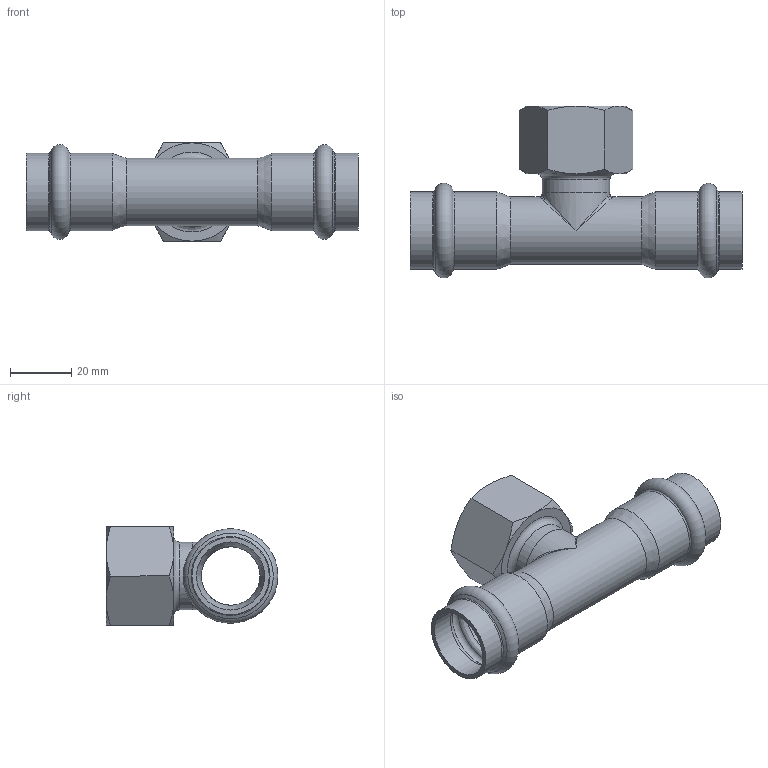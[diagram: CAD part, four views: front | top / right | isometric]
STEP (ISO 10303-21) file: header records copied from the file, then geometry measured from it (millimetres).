
FILE_DESCRIPTION((''),'2;1');
FILE_NAME('G:\Nirosan-Schmiedefeld\Technics\CAD\Bauteile VA\022\69130g223422(2).stp','2011-05-19T11:01:34',('herberg'),(''),'Autodesk Inventor 2009','Autodesk Inventor 2009','');
FILE_SCHEMA(('AUTOMOTIVE_DESIGN { 1 0 10303 214 1 1 1 1 }'));
Length unit declared in the file: millimetre
Products named in the file (3): 69130g223422(2); LM_6913022(2); IG2234(1)
Assembly tree (2 placements, depth 2):
  69130g223422(2)
    LM_6913022(2)
    IG2234(1)
Bounding box: 108 x 55.89 x 32 mm (x, y, z)
Volume: 22690.2 mm3; surface area: 22403.1 mm2
Topology: 2 solids, 2 shells, 66 faces, 147 edges, 79 vertices
Faces by surface type: cone 21, bspline 16, cylinder 13, plane 12, torus 4
Full cylindrical faces by diameter (mm): 19 x2, 22 x3, 22.15 x4, 25.15 x4
Entity records: 2534 total; most frequent: CARTESIAN_POINT 1338, DIRECTION 240, ORIENTED_EDGE 184, AXIS2_PLACEMENT_3D 117, EDGE_LOOP 112, EDGE_CURVE 92, VERTEX_POINT 70, FACE_OUTER_BOUND 66
